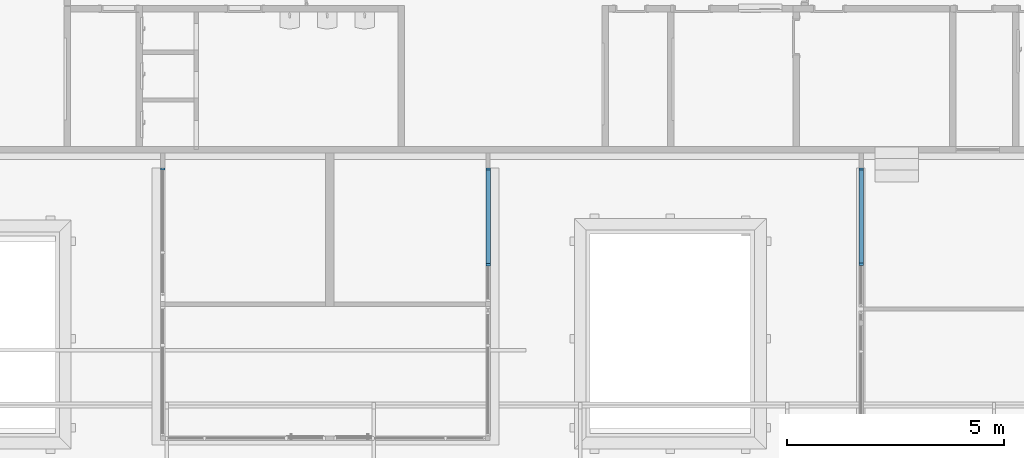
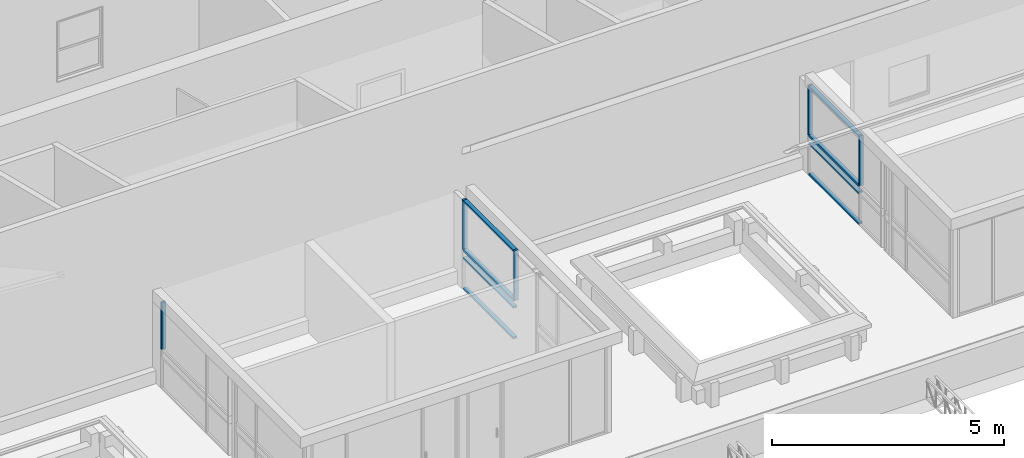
# One storey, part 9 of 153: 14 members, 3 elements without a shape of their own.
"""IFC4 building model written with IfcOpenShell, lengths in metres."""

from ifc_helpers import new_model, entity, si_unit, converted_unit, derived_unit, direction, frame, origin, place, context, subcontext, project, spatial, indexed_curve, outline, extrude, source, transform, mapped, material, type_object, type_shapes, element, aggregate, save


model = new_model("IFC4")

# Units and contexts
model_context = context("Model", 3, precision=1e-05, world=origin(), true_north=direction((6.123031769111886e-17, 1.0)))
body_context = subcontext(model_context, "Body", "Model", "MODEL_VIEW")
ifc_project = project(units=[si_unit("LENGTHUNIT", "METRE"), si_unit("AREAUNIT", "SQUARE_METRE"), si_unit("VOLUMEUNIT", "CUBIC_METRE"), converted_unit("PLANEANGLEUNIT", "DEGREE", entity("IfcRatioMeasure", 0.017453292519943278), si_unit("PLANEANGLEUNIT", "RADIAN"), dimensions=[0, 0, 0, 0, 0, 0, 0]), si_unit("MASSUNIT", "GRAM", prefix="KILO"), derived_unit("MASSDENSITYUNIT", [(si_unit("MASSUNIT", "GRAM", prefix="KILO"), 1), (si_unit("LENGTHUNIT", "METRE"), -3)]), derived_unit("MOMENTOFINERTIAUNIT", [(si_unit("LENGTHUNIT", "METRE"), 4)]), si_unit("TIMEUNIT", "SECOND"), si_unit("FREQUENCYUNIT", "HERTZ"), si_unit("THERMODYNAMICTEMPERATUREUNIT", "DEGREE_CELSIUS"), derived_unit("THERMALTRANSMITTANCEUNIT", [(si_unit("MASSUNIT", "GRAM", prefix="KILO"), 1), (si_unit("THERMODYNAMICTEMPERATUREUNIT", "KELVIN"), -1), (si_unit("TIMEUNIT", "SECOND"), -3)]), derived_unit("VOLUMETRICFLOWRATEUNIT", [(si_unit("LENGTHUNIT", "METRE"), 3), (si_unit("TIMEUNIT", "SECOND"), -1)]), derived_unit("MASSFLOWRATEUNIT", [(si_unit("MASSUNIT", "GRAM", prefix="KILO"), 1), (si_unit("TIMEUNIT", "SECOND"), -1)]), derived_unit("ROTATIONALFREQUENCYUNIT", [(si_unit("TIMEUNIT", "SECOND"), -1)]), si_unit("ELECTRICCURRENTUNIT", "AMPERE"), si_unit("ELECTRICVOLTAGEUNIT", "VOLT"), si_unit("POWERUNIT", "WATT"), si_unit("FORCEUNIT", "NEWTON", prefix="KILO"), si_unit("ILLUMINANCEUNIT", "LUX"), si_unit("LUMINOUSFLUXUNIT", "LUMEN"), si_unit("LUMINOUSINTENSITYUNIT", "CANDELA"), derived_unit("USERDEFINED", [(si_unit("MASSUNIT", "GRAM", prefix="KILO"), -1), (si_unit("LENGTHUNIT", "METRE"), -2), (si_unit("TIMEUNIT", "SECOND"), 3), (si_unit("LUMINOUSFLUXUNIT", "LUMEN"), 1)]), derived_unit("SOUNDPOWERUNIT", [(si_unit("MASSUNIT", "GRAM", prefix="KILO"), 1), (si_unit("LENGTHUNIT", "METRE"), 2), (si_unit("TIMEUNIT", "SECOND"), -3)]), derived_unit("SOUNDPRESSUREUNIT", [(si_unit("MASSUNIT", "GRAM", prefix="KILO"), 1), (si_unit("LENGTHUNIT", "METRE"), -1), (si_unit("TIMEUNIT", "SECOND"), -2)]), derived_unit("LINEARVELOCITYUNIT", [(si_unit("LENGTHUNIT", "METRE"), 1), (si_unit("TIMEUNIT", "SECOND"), -1)]), si_unit("PRESSUREUNIT", "PASCAL"), derived_unit("USERDEFINED", [(si_unit("LENGTHUNIT", "METRE"), -2), (si_unit("MASSUNIT", "GRAM", prefix="KILO"), 1), (si_unit("TIMEUNIT", "SECOND"), -2)]), derived_unit("LINEARFORCEUNIT", [(si_unit("MASSUNIT", "GRAM", prefix="KILO"), 1), (si_unit("LENGTHUNIT", "METRE"), 1), (si_unit("TIMEUNIT", "SECOND"), -2), (si_unit("LENGTHUNIT", "METRE"), -1)]), derived_unit("PLANARFORCEUNIT", [(si_unit("MASSUNIT", "GRAM", prefix="KILO"), 1), (si_unit("LENGTHUNIT", "METRE"), 1), (si_unit("TIMEUNIT", "SECOND"), -2), (si_unit("LENGTHUNIT", "METRE"), -2)])], contexts=[model_context])

# Site, building, storey
site_placement = place(None, origin())
site = spatial("IfcSite", under=ifc_project, at=site_placement, Name="Superficie", CompositionType="ELEMENT")
building_placement = place(site_placement, origin())
building = spatial("IfcBuilding", under=site, at=building_placement, CompositionType="ELEMENT")
storey_placement = place(building_placement, frame((0.0, 0.0, 3.5999999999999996)))
storey = spatial("IfcBuildingStorey", under=building, at=storey_placement, Name="Nivel 1", CompositionType="ELEMENT", Elevation=3.5999999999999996)

# Curtain wall, member
curtain_wall_type = type_object("IfcCurtainWallType", Name="Muro cortina:Muro cortina - simple", PredefinedType="NOTDEFINED")
curtain_wall_1_placement = place(storey_placement, frame((0.0, 0.0, -3.5999999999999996)))
curtain_wall_1 = element("IfcCurtainWall", 1, at=curtain_wall_1_placement, inside=storey, type_object=curtain_wall_type, Name="Muro cortina:Muro cortina - simple", ObjectType="Muro cortina:Muro cortina - simple", PredefinedType="NOTDEFINED")
ifc_material = material(Name="<Unnamed>")
member_type_1 = type_object("IfcMemberType", Name="Montante rectangular:Montante rectangular - 5 x 10 cm", PredefinedType="MULLION", material=ifc_material)
shared_shape_1 = source(origin(), body_context, "Body", "SweptSolid", [
    extrude(outline(indexed_curve([(-0.05, -0.025), (0.05, -0.025), (0.05, 0.025), (-0.05, 0.025), (-0.05, -0.025)], self_intersect=False)), frame((-0.025, 0.0, -1.2499999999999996), z_axis=(0.0, 0.0, 1.0), x_axis=(0.0, -1.0, 0.0)), (0.0, 0.0, 1.0), 1.2499999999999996),
])
type_shapes(member_type_1, [shared_shape_1])
member_1_placement = place(curtain_wall_1_placement, frame((-13.023200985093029, 5.276393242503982, 4.63), z_axis=(0.0, 0.0, -1.0), x_axis=(0.0, 1.0, 0.0)))
member_1 = element("IfcMember", 2, at=member_1_placement, type_object=member_type_1, material=ifc_material, Name="Montante rectangular:Montante rectangular - 5 x 10 cm", ObjectType="Montante rectangular:Montante rectangular - 5 x 10 cm", PredefinedType="MULLION", context=body_context, shape_type="MappedRepresentation", body=[
    mapped(shared_shape_1, transform((0.0, 0.0, 0.0), scale=1.0)),
])

# Curtain wall, members
curtain_wall_2_placement = place(storey_placement, frame((0.0, 0.0, -3.5999999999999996)))
curtain_wall_2 = element("IfcCurtainWall", 3, at=curtain_wall_2_placement, inside=storey, type_object=curtain_wall_type, Name="Muro cortina:Muro cortina - simple", ObjectType="Muro cortina:Muro cortina - simple", PredefinedType="NOTDEFINED")
member_type_2 = type_object("IfcMemberType", Name="Montante rectangular:Montante rectangular - 5 x 10 cm", PredefinedType="MULLION", material=ifc_material)
shared_shape_2 = source(origin(), body_context, "Body", "SweptSolid", [
    extrude(outline(indexed_curve([(-0.05, -0.025), (0.05, -0.025), (0.05, 0.025), (-0.05, 0.025), (-0.05, -0.025)], self_intersect=False)), frame((0.0, 0.0, -2.156160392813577), z_axis=(0.0, 0.0, 1.0), x_axis=(0.0, -1.0, 0.0)), (0.0, 0.0, 1.0), 2.156160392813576),
])
type_shapes(member_type_2, [shared_shape_2])
member_2_placement = place(curtain_wall_2_placement, frame((-5.513200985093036, 5.226393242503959, 4.63), z_axis=(0.0, 1.0, 0.0), x_axis=(0.0, 0.0, 1.0)))
member_2 = element("IfcMember", 4, at=member_2_placement, type_object=member_type_2, material=ifc_material, Name="Montante rectangular:Montante rectangular - 5 x 10 cm", ObjectType="Montante rectangular:Montante rectangular - 5 x 10 cm", PredefinedType="MULLION", context=body_context, shape_type="MappedRepresentation", body=[
    mapped(shared_shape_2, transform((0.0, 0.0, 0.0), scale=1.0)),
])
member_3_placement = place(curtain_wall_2_placement, frame((-5.513200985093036, 5.226393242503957, 4.43), z_axis=(0.0, 1.0, 0.0), x_axis=(0.0, 0.0, 1.0)))
member_3 = element("IfcMember", 5, at=member_3_placement, type_object=member_type_2, material=ifc_material, Name="Montante rectangular:Montante rectangular - 5 x 10 cm", ObjectType="Montante rectangular:Montante rectangular - 5 x 10 cm", PredefinedType="MULLION", context=body_context, shape_type="MappedRepresentation", body=[
    mapped(shared_shape_2, transform((0.0, 0.0, 0.0), scale=1.0)),
])
member_4_placement = place(curtain_wall_2_placement, frame((-5.513200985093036, 5.226393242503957, 3.619999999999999), z_axis=(0.0, 1.0, 0.0), x_axis=(0.0, 0.0, 1.0)))
member_4 = element("IfcMember", 6, at=member_4_placement, type_object=member_type_2, material=ifc_material, Name="Montante rectangular:Montante rectangular - 5 x 10 cm", ObjectType="Montante rectangular:Montante rectangular - 5 x 10 cm", PredefinedType="MULLION", context=body_context, shape_type="MappedRepresentation", body=[
    mapped(shared_shape_2, transform((0.0, 0.0, 0.0), scale=1.0)),
])

# Curtain wall, member
curtain_wall_3_placement = place(storey_placement, frame((0.0, 0.0, -3.5999999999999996)))
curtain_wall_3 = element("IfcCurtainWall", 7, at=curtain_wall_3_placement, inside=storey, type_object=curtain_wall_type, Name="Muro cortina:Muro cortina - simple", ObjectType="Muro cortina:Muro cortina - simple", PredefinedType="NOTDEFINED")
member_type_3 = type_object("IfcMemberType", Name="Montante rectangular:Montante rectangular - 5 x 10 cm", PredefinedType="MULLION", material=ifc_material)
shared_shape_3 = source(origin(), body_context, "Body", "SweptSolid", [
    extrude(outline(indexed_curve([(-0.05, -0.025), (0.05, -0.025), (0.05, 0.025), (-0.05, 0.025), (-0.05, -0.025)], self_intersect=False)), frame((0.0, 0.0, -1.3199999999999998), z_axis=(0.0, 0.0, 1.0), x_axis=(0.0, -1.0, 0.0)), (0.0, 0.0, 1.0), 1.3199999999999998),
])
type_shapes(member_type_3, [shared_shape_3])
member_5_placement = place(curtain_wall_3_placement, frame((3.0917990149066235, 3.057083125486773, 4.63), z_axis=(0.0, 0.0, -1.0), x_axis=(0.0, 1.0, 0.0)))
member_5 = element("IfcMember", 8, at=member_5_placement, type_object=member_type_3, material=ifc_material, Name="Montante rectangular:Montante rectangular - 5 x 10 cm", ObjectType="Montante rectangular:Montante rectangular - 5 x 10 cm", PredefinedType="MULLION", context=body_context, shape_type="MappedRepresentation", body=[
    mapped(shared_shape_3, transform((0.0, 0.0, 0.0), scale=1.0)),
])

# Member
member_6_placement = place(curtain_wall_2_placement, frame((-5.51320098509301, 3.0452328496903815, 4.63), z_axis=(0.0, 0.0, -1.0), x_axis=(0.0, 1.0, 0.0)))
member_6 = element("IfcMember", 9, at=member_6_placement, type_object=member_type_3, material=ifc_material, Name="Montante rectangular:Montante rectangular - 5 x 10 cm", ObjectType="Montante rectangular:Montante rectangular - 5 x 10 cm", PredefinedType="MULLION", context=body_context, shape_type="MappedRepresentation", body=[
    mapped(shared_shape_3, transform((0.0, 0.0, 0.0), scale=1.0)),
])

member_type_4 = type_object("IfcMemberType", Name="Montante rectangular:Montante rectangular - 5 x 10 cm", PredefinedType="MULLION", material=ifc_material)
shared_shape_4 = source(origin(), body_context, "Body", "SweptSolid", [
    extrude(outline(indexed_curve([(-0.05, -0.025), (0.05, -0.025), (0.05, 0.025), (-0.05, 0.025), (-0.05, -0.025)], self_intersect=False)), frame((-0.025, 0.0, -1.3199999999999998), z_axis=(0.0, 0.0, 1.0), x_axis=(0.0, -1.0, 0.0)), (0.0, 0.0, 1.0), 1.3199999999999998),
])
type_shapes(member_type_4, [shared_shape_4])
member_7_placement = place(curtain_wall_3_placement, frame((3.091799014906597, 5.276393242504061, 4.63), z_axis=(0.0, 0.0, -1.0), x_axis=(0.0, 1.0, 0.0)))
member_7 = element("IfcMember", 10, at=member_7_placement, type_object=member_type_4, material=ifc_material, Name="Montante rectangular:Montante rectangular - 5 x 10 cm", ObjectType="Montante rectangular:Montante rectangular - 5 x 10 cm", PredefinedType="MULLION", context=body_context, shape_type="MappedRepresentation", body=[
    mapped(shared_shape_4, transform((0.0, 0.0, 0.0), scale=1.0)),
])

member_8_placement = place(curtain_wall_2_placement, frame((-5.513200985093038, 5.276393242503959, 4.63), z_axis=(0.0, 0.0, -1.0), x_axis=(0.0, 1.0, 0.0)))
member_8 = element("IfcMember", 11, at=member_8_placement, type_object=member_type_4, material=ifc_material, Name="Montante rectangular:Montante rectangular - 5 x 10 cm", ObjectType="Montante rectangular:Montante rectangular - 5 x 10 cm", PredefinedType="MULLION", context=body_context, shape_type="MappedRepresentation", body=[
    mapped(shared_shape_4, transform((0.0, 0.0, 0.0), scale=1.0)),
])

member_type_5 = type_object("IfcMemberType", Name="Montante rectangular:Montante rectangular - 5 x 10 cm", PredefinedType="MULLION", material=ifc_material)
shared_shape_5 = source(origin(), body_context, "Body", "SweptSolid", [
    extrude(outline(indexed_curve([(-0.05, -0.025), (0.05, -0.025), (0.05, 0.025), (-0.05, 0.025), (-0.05, -0.025)], self_intersect=False)), frame((-0.025, 0.0, -2.1561603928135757), z_axis=(0.0, 0.0, 1.0), x_axis=(0.0, -1.0, 0.0)), (0.0, 0.0, 1.0), 2.1561603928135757),
])
type_shapes(member_type_5, [shared_shape_5])
member_9_placement = place(curtain_wall_2_placement, frame((-5.513200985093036, 5.226393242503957, 5.949999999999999), z_axis=(0.0, 1.0, 0.0), x_axis=(0.0, 0.0, 1.0)))
member_9 = element("IfcMember", 12, at=member_9_placement, type_object=member_type_5, material=ifc_material, Name="Montante rectangular:Montante rectangular - 5 x 10 cm", ObjectType="Montante rectangular:Montante rectangular - 5 x 10 cm", PredefinedType="MULLION", context=body_context, shape_type="MappedRepresentation", body=[
    mapped(shared_shape_5, transform((0.0, 0.0, 0.0), scale=1.0)),
])

aggregate(curtain_wall_2, [member_2, member_3, member_6, member_4, member_8, member_9])

member_type_6 = type_object("IfcMemberType", Name="Montante rectangular:Montante rectangular - 5 x 10 cm", PredefinedType="MULLION", material=ifc_material)
shared_shape_6 = source(origin(), body_context, "Body", "SweptSolid", [
    extrude(outline(indexed_curve([(-0.05, -0.025), (0.05, -0.025), (0.05, 0.025), (-0.05, 0.025), (-0.05, -0.025)], self_intersect=False)), frame((0.0, 0.0, -2.1443101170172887), z_axis=(0.0, 0.0, 1.0), x_axis=(0.0, -1.0, 0.0)), (0.0, 0.0, 1.0), 2.144310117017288),
])
type_shapes(member_type_6, [shared_shape_6])
member_10_placement = place(curtain_wall_3_placement, frame((3.0917990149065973, 5.226393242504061, 4.63), z_axis=(0.0, 1.0, 0.0), x_axis=(0.0, 0.0, 1.0)))
member_10 = element("IfcMember", 13, at=member_10_placement, type_object=member_type_6, material=ifc_material, Name="Montante rectangular:Montante rectangular - 5 x 10 cm", ObjectType="Montante rectangular:Montante rectangular - 5 x 10 cm", PredefinedType="MULLION", context=body_context, shape_type="MappedRepresentation", body=[
    mapped(shared_shape_6, transform((0.0, 0.0, 0.0), scale=1.0)),
])

member_11_placement = place(curtain_wall_3_placement, frame((3.0917990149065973, 5.226393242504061, 4.43), z_axis=(0.0, 1.0, 0.0), x_axis=(0.0, 0.0, 1.0)))
member_11 = element("IfcMember", 14, at=member_11_placement, type_object=member_type_6, material=ifc_material, Name="Montante rectangular:Montante rectangular - 5 x 10 cm", ObjectType="Montante rectangular:Montante rectangular - 5 x 10 cm", PredefinedType="MULLION", context=body_context, shape_type="MappedRepresentation", body=[
    mapped(shared_shape_6, transform((0.0, 0.0, 0.0), scale=1.0)),
])

member_12_placement = place(curtain_wall_3_placement, frame((3.0917990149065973, 5.226393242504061, 3.619999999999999), z_axis=(0.0, 1.0, 0.0), x_axis=(0.0, 0.0, 1.0)))
member_12 = element("IfcMember", 15, at=member_12_placement, type_object=member_type_6, material=ifc_material, Name="Montante rectangular:Montante rectangular - 5 x 10 cm", ObjectType="Montante rectangular:Montante rectangular - 5 x 10 cm", PredefinedType="MULLION", context=body_context, shape_type="MappedRepresentation", body=[
    mapped(shared_shape_6, transform((0.0, 0.0, 0.0), scale=1.0)),
])

member_type_7 = type_object("IfcMemberType", Name="Montante rectangular:Montante rectangular - 5 x 10 cm", PredefinedType="MULLION", material=ifc_material)
shared_shape_7 = source(origin(), body_context, "Body", "SweptSolid", [
    extrude(outline(indexed_curve([(-0.05, -0.025), (0.05, -0.025), (0.05, 0.025), (-0.05, 0.025), (-0.05, -0.025)], self_intersect=False)), frame((-0.025, 0.0, -2.1443101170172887), z_axis=(0.0, 0.0, 1.0), x_axis=(0.0, -1.0, 0.0)), (0.0, 0.0, 1.0), 2.1443101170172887),
])
type_shapes(member_type_7, [shared_shape_7])
member_13_placement = place(curtain_wall_3_placement, frame((3.0917990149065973, 5.226393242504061, 5.949999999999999), z_axis=(0.0, 1.0, 0.0), x_axis=(0.0, 0.0, 1.0)))
member_13 = element("IfcMember", 16, at=member_13_placement, type_object=member_type_7, material=ifc_material, Name="Montante rectangular:Montante rectangular - 5 x 10 cm", ObjectType="Montante rectangular:Montante rectangular - 5 x 10 cm", PredefinedType="MULLION", context=body_context, shape_type="MappedRepresentation", body=[
    mapped(shared_shape_7, transform((0.0, 0.0, 0.0), scale=1.0)),
])

aggregate(curtain_wall_3, [member_10, member_11, member_5, member_12, member_7, member_13])

member_type_8 = type_object("IfcMemberType", Name="Montante rectangular:Montante rectangular - 5 x 10 cm", PredefinedType="MULLION", material=ifc_material)
shared_shape_8 = source(origin(), body_context, "Body", "SweptSolid", [
    extrude(outline(indexed_curve([(-0.05, -0.025), (0.05, -0.025), (0.05, 0.025), (-0.05, 0.025), (-0.05, -0.025)], self_intersect=False)), frame((0.0, 0.0, -1.2249999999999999), z_axis=(0.0, 0.0, 1.0), x_axis=(0.0, -1.0, 0.0)), (0.0, 0.0, 1.0), 1.2249999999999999),
])
type_shapes(member_type_8, [shared_shape_8])
member_14_placement = place(curtain_wall_1_placement, frame((-13.023200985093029, 5.256393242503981, 4.654999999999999), z_axis=(0.0, 0.0, -1.0), x_axis=(0.0, 1.0, 0.0)))
member_14 = element("IfcMember", 17, at=member_14_placement, type_object=member_type_8, material=ifc_material, Name="Montante rectangular:Montante rectangular - 5 x 10 cm", ObjectType="Montante rectangular:Montante rectangular - 5 x 10 cm", PredefinedType="MULLION", context=body_context, shape_type="MappedRepresentation", body=[
    mapped(shared_shape_8, transform((0.0, 0.0, 0.0), scale=1.0)),
])

aggregate(curtain_wall_1, [member_1, member_14])

save(model, "model.ifc")
